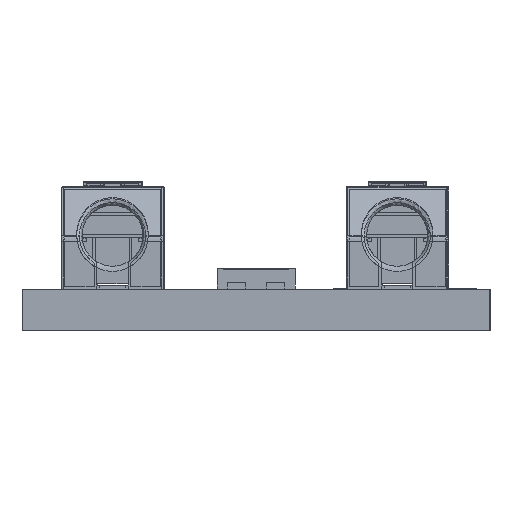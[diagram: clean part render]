
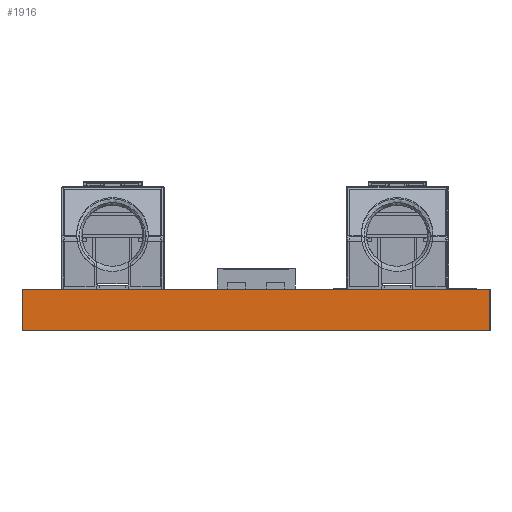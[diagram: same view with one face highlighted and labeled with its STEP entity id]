
A CAD part, left-side view. The second image highlights one B-rep face of the part: STEP entity #1916.
In plain terms, the highlighted planar face has unit normal (-1, 0, 0).
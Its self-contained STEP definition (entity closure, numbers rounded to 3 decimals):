
#1916=ADVANCED_FACE('',(#5116),#3468,.F.);
#3468=PLANE('',#36836);
#5116=FACE_OUTER_BOUND('',#6901,.T.);
#6901=EDGE_LOOP('',(#14704,#14705,#14706,#14707));
#14704=ORIENTED_EDGE('',*,*,#23863,.T.);
#14705=ORIENTED_EDGE('',*,*,#23864,.F.);
#14706=ORIENTED_EDGE('',*,*,#23865,.F.);
#14707=ORIENTED_EDGE('',*,*,#23861,.T.);
#19418=VERTEX_POINT('',#69054);
#19419=VERTEX_POINT('',#69056);
#19420=VERTEX_POINT('',#69068);
#19421=VERTEX_POINT('',#69070);
#23861=EDGE_CURVE('',#19419,#19418,#29700,.T.);
#23863=EDGE_CURVE('',#19418,#19420,#25140,.T.);
#23864=EDGE_CURVE('',#19421,#19420,#29701,.T.);
#23865=EDGE_CURVE('',#19419,#19421,#25141,.T.);
#25140=(
BOUNDED_CURVE()
B_SPLINE_CURVE(4,(#69063,#69064,#69065,#69066,#69067),.UNSPECIFIED.,.F.,
 .F.)
B_SPLINE_CURVE_WITH_KNOTS((5,5),(0.,1.),.UNSPECIFIED.)
CURVE()
GEOMETRIC_REPRESENTATION_ITEM()
RATIONAL_B_SPLINE_CURVE((1.,1.,1.,1.,1.))
REPRESENTATION_ITEM('')
);
#25141=(
BOUNDED_CURVE()
B_SPLINE_CURVE(4,(#69071,#69072,#69073,#69074,#69075),.UNSPECIFIED.,.F.,
 .F.)
B_SPLINE_CURVE_WITH_KNOTS((5,5),(0.,1.),.UNSPECIFIED.)
CURVE()
GEOMETRIC_REPRESENTATION_ITEM()
RATIONAL_B_SPLINE_CURVE((1.,1.,1.,1.,1.))
REPRESENTATION_ITEM('')
);
#29700=LINE('',#69055,#34189);
#29701=LINE('',#69069,#34190);
#34189=VECTOR('',#44143,1.);
#34190=VECTOR('',#44146,1.);
#36836=AXIS2_PLACEMENT_3D('',#69076,#44147,#44148);
#44143=DIRECTION('',(0.,0.,1.));
#44146=DIRECTION('',(0.,0.,1.));
#44147=DIRECTION('',(1.,0.,0.));
#44148=DIRECTION('',(0.,0.,-1.));
#69054=CARTESIAN_POINT('',(0.,0.,0.));
#69055=CARTESIAN_POINT('',(0.,0.,-1.6));
#69056=CARTESIAN_POINT('',(0.,0.,-1.6));
#69063=CARTESIAN_POINT('',(0.,0.,0.));
#69064=CARTESIAN_POINT('',(0.,4.5,0.));
#69065=CARTESIAN_POINT('',(0.,8.999,0.));
#69066=CARTESIAN_POINT('',(0.,13.499,0.));
#69067=CARTESIAN_POINT('',(0.,17.999,0.));
#69068=CARTESIAN_POINT('',(0.,17.999,0.));
#69069=CARTESIAN_POINT('',(0.,17.999,-1.6));
#69070=CARTESIAN_POINT('',(0.,17.999,-1.6));
#69071=CARTESIAN_POINT('',(0.,0.,-1.6));
#69072=CARTESIAN_POINT('',(0.,4.5,-1.6));
#69073=CARTESIAN_POINT('',(0.,8.999,-1.6));
#69074=CARTESIAN_POINT('',(0.,13.499,-1.6));
#69075=CARTESIAN_POINT('',(0.,17.999,-1.6));
#69076=CARTESIAN_POINT('',(0.,0.,-1.6));
